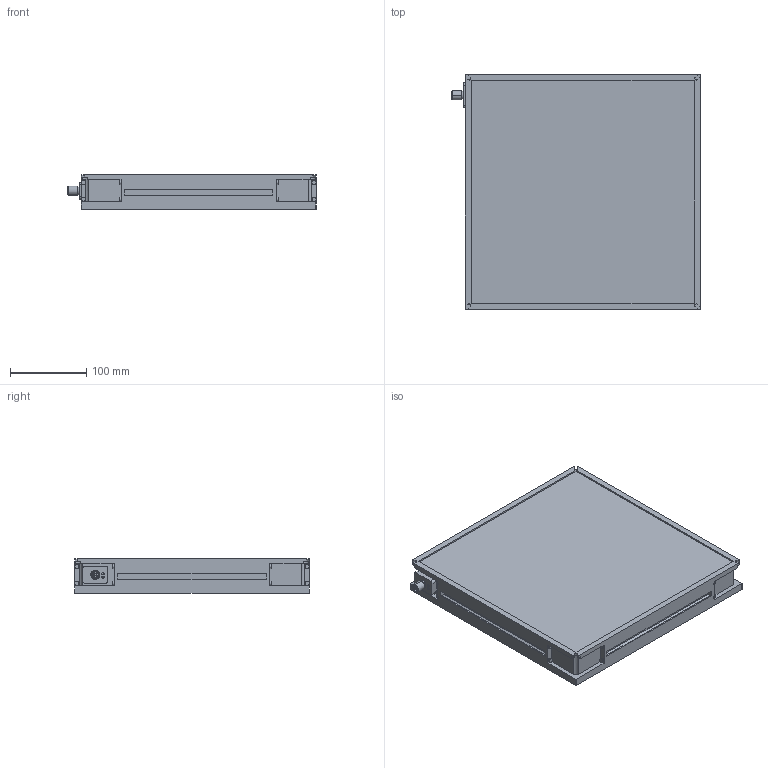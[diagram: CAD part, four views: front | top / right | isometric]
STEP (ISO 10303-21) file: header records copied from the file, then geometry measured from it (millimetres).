
FILE_DESCRIPTION (( 'STEP AP214' ), '1' );
FILE_NAME ('HPB-EC-3030-xxx-M1.STEP', '2026-06-08T15:58:17', ( '' ), ( '' ), 'SwSTEP 2.0', 'SolidWorks 2025', '' );
FILE_SCHEMA (( 'AUTOMOTIVE_DESIGN' ));
Length unit declared in the file: millimetre
Products named in the file (1): HPB-EC-3030-xxx-M1
Bounding box: 325.9 x 308 x 45.5 mm (x, y, z)
Volume: 3892919.2 mm3; surface area: 271288.1 mm2
Topology: 1 solids, 1 shells, 441 faces, 1142 edges, 758 vertices
Faces by surface type: plane 248, cylinder 103, bspline 80, cone 10
Entity records: 17426 total; most frequent: CARTESIAN_POINT 6694, ORIENTED_EDGE 2284, DIRECTION 1930, EDGE_CURVE 1142, VERTEX_POINT 758, VECTOR 758, LINE 758, AXIS2_PLACEMENT_3D 586
